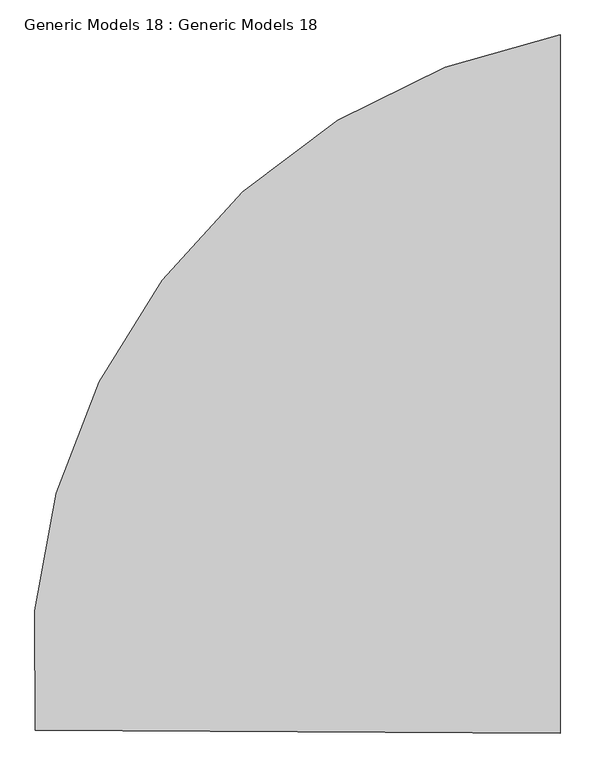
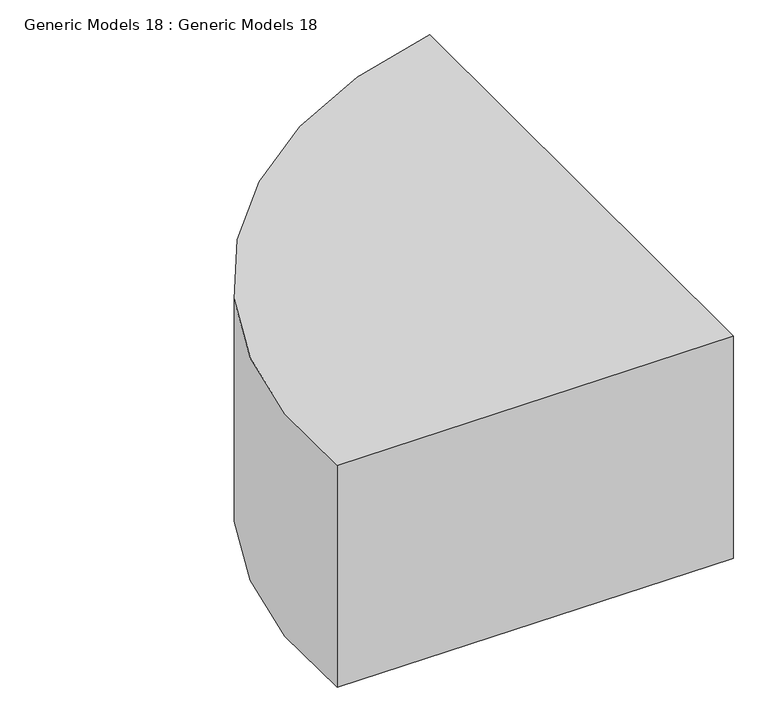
"""IFC4 building model written with IfcOpenShell, lengths in millimetres: proxy geometry, Generic Models 18 : Generic Models 18."""

from ifc_helpers import new_model, si_unit, point, frame_2d, origin, origin_with_axes, place, context, project, spatial, polyline, circle_curve, trimmed, segment, composite_curve, outline, extrude, source, transform, mapped, element, save


def generic_models_18_generic_models_18_24b7fd5e(model_context):
    return source(origin(), model_context, "Body", "SweptSolid", [
        extrude(outline(composite_curve([segment(polyline([(93684.6391309, 5833.8338773), (92174.4631437, 5841.9654055)]), True, "CONTINUOUS"), segment(trimmed(circle_curve(frame_2d((94016.5482861, 6022.8089859)), 1850.9408614), [point((92174.4631437, 5841.9654055))], [point((93684.6391309, 7843.7478605))], False, "CARTESIAN"), True, "CONTINUOUS"), segment(polyline([(93684.6391309, 7843.7478605), (93684.6391309, 5833.8338773)]), True, "CONTINUOUS")], self_intersect=False)), origin_with_axes(), (0.0, 0.0, 1.0), 900.0),
    ])


if __name__ == "__main__":
    model = new_model("IFC4")
    model_context = context("Model", 3, world=origin())
    ifc_project = project(units=[si_unit("LENGTHUNIT", "METRE", prefix="MILLI")], contexts=[model_context])
    site = spatial("IfcSite", under=ifc_project)
    building = spatial("IfcBuilding", under=site)
    placement = place(None, origin())
    generic_models_18_generic_models_18_shape = generic_models_18_generic_models_18_24b7fd5e(model_context)
    element("IfcBuildingElementProxy", 1, Name="Generic Models 18 : Generic Models 18", ObjectType="Generic Models 18 : Generic Models 18", at=placement, inside=building, context=model_context, shape_type="MappedRepresentation", body=[
        mapped(generic_models_18_generic_models_18_shape, transform((0.0, 0.0, 0.0), x_axis=(1.0, 0.0, 0.0), y_axis=(0.0, 1.0, 0.0), z_axis=(0.0, 0.0, 1.0))),
    ])
    save(model, "model.ifc")
